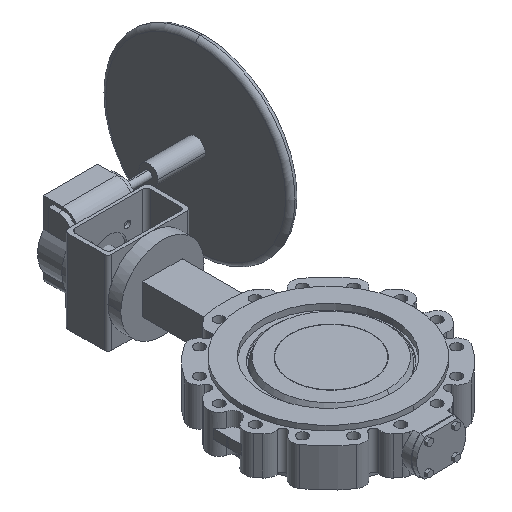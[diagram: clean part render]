
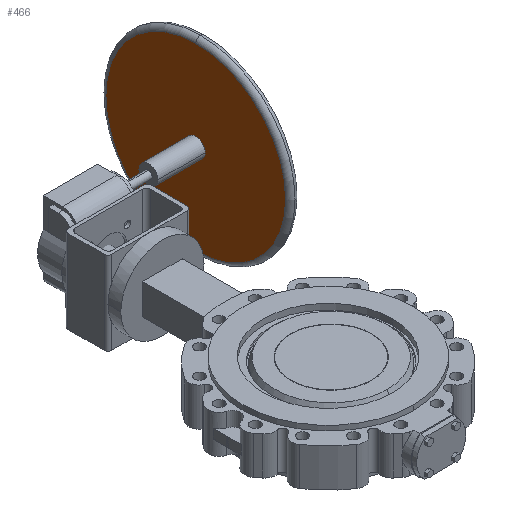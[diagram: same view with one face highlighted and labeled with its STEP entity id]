
A CAD part, isometric view. The second image highlights one B-rep face of the part: STEP entity #466.
In plain terms, the highlighted planar face has unit normal (-1, 0, 0).
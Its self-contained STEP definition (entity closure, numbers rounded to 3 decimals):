
#466 = ADVANCED_FACE( '', ( #1235, #1236 ), #1237, .T. );
#1235 = FACE_OUTER_BOUND( '', #2011, .T. );
#1236 = FACE_BOUND( '', #2012, .T. );
#1237 = PLANE( '', #2013 );
#2011 = EDGE_LOOP( '', ( #4891, #4892, #4893 ) );
#2012 = EDGE_LOOP( '', ( #4894, #4895 ) );
#2013 = AXIS2_PLACEMENT_3D( '', #4896, #4897, #4898 );
#4891 = ORIENTED_EDGE( '', *, *, #5718, .F. );
#4892 = ORIENTED_EDGE( '', *, *, #5717, .F. );
#4893 = ORIENTED_EDGE( '', *, *, #5714, .F. );
#4894 = ORIENTED_EDGE( '', *, *, #5730, .T. );
#4895 = ORIENTED_EDGE( '', *, *, #5871, .T. );
#4896 = CARTESIAN_POINT( '', ( 280., 761.25, 86. ) );
#4897 = DIRECTION( '', ( -1., 0., 0. ) );
#4898 = DIRECTION( '', ( 0., -1., 0. ) );
#5714 = EDGE_CURVE( '', #7160, #7162, #7163, .T. );
#5717 = EDGE_CURVE( '', #7162, #7166, #7167, .T. );
#5718 = EDGE_CURVE( '', #7166, #7160, #7168, .T. );
#5730 = EDGE_CURVE( '', #7185, #7189, #7191, .T. );
#5871 = EDGE_CURVE( '', #7189, #7185, #7425, .T. );
#7160 = VERTEX_POINT( '', #9810 );
#7162 = VERTEX_POINT( '', #9812 );
#7163 = CIRCLE( '', #9813, 237.5 );
#7166 = VERTEX_POINT( '', #9816 );
#7167 = CIRCLE( '', #9817, 237.5 );
#7168 = CIRCLE( '', #9818, 237.5 );
#7185 = VERTEX_POINT( '', #9837 );
#7189 = VERTEX_POINT( '', #9842 );
#7191 = CIRCLE( '', #9845, 25. );
#7425 = CIRCLE( '', #10214, 25. );
#9810 = CARTESIAN_POINT( '', ( 280., 630., 323.5 ) );
#9812 = CARTESIAN_POINT( '', ( 280., 630., -151.5 ) );
#9813 = AXIS2_PLACEMENT_3D( '', #11674, #11675, #11676 );
#9816 = CARTESIAN_POINT( '', ( 280., 867.5, 86. ) );
#9817 = AXIS2_PLACEMENT_3D( '', #11683, #11684, #11685 );
#9818 = AXIS2_PLACEMENT_3D( '', #11686, #11687, #11688 );
#9837 = CARTESIAN_POINT( '', ( 280., 655., 86. ) );
#9842 = CARTESIAN_POINT( '', ( 280., 605., 86. ) );
#9845 = AXIS2_PLACEMENT_3D( '', #11714, #11715, #11716 );
#10214 = AXIS2_PLACEMENT_3D( '', #11930, #11931, #11932 );
#11674 = CARTESIAN_POINT( '', ( 280., 630., 86. ) );
#11675 = DIRECTION( '', ( 1., 0., 0. ) );
#11676 = DIRECTION( '', ( 0., 1., 0. ) );
#11683 = CARTESIAN_POINT( '', ( 280., 630., 86. ) );
#11684 = DIRECTION( '', ( 1., 0., 0. ) );
#11685 = DIRECTION( '', ( 0., 1., 0. ) );
#11686 = CARTESIAN_POINT( '', ( 280., 630., 86. ) );
#11687 = DIRECTION( '', ( 1., 0., 0. ) );
#11688 = DIRECTION( '', ( 0., 1., 0. ) );
#11714 = CARTESIAN_POINT( '', ( 280., 630., 86. ) );
#11715 = DIRECTION( '', ( 1., 0., 0. ) );
#11716 = DIRECTION( '', ( 0., 1., 0. ) );
#11930 = CARTESIAN_POINT( '', ( 280., 630., 86. ) );
#11931 = DIRECTION( '', ( 1., 0., 0. ) );
#11932 = DIRECTION( '', ( 0., 1., 0. ) );
